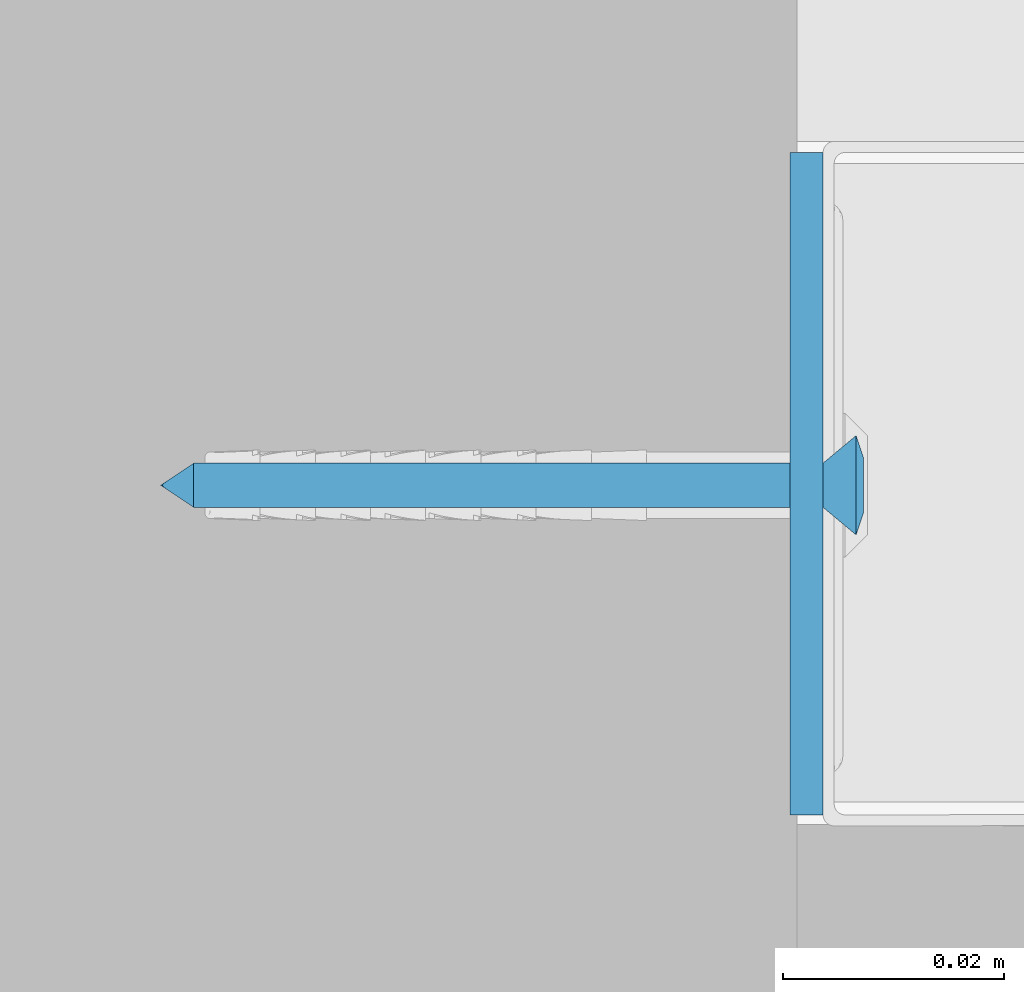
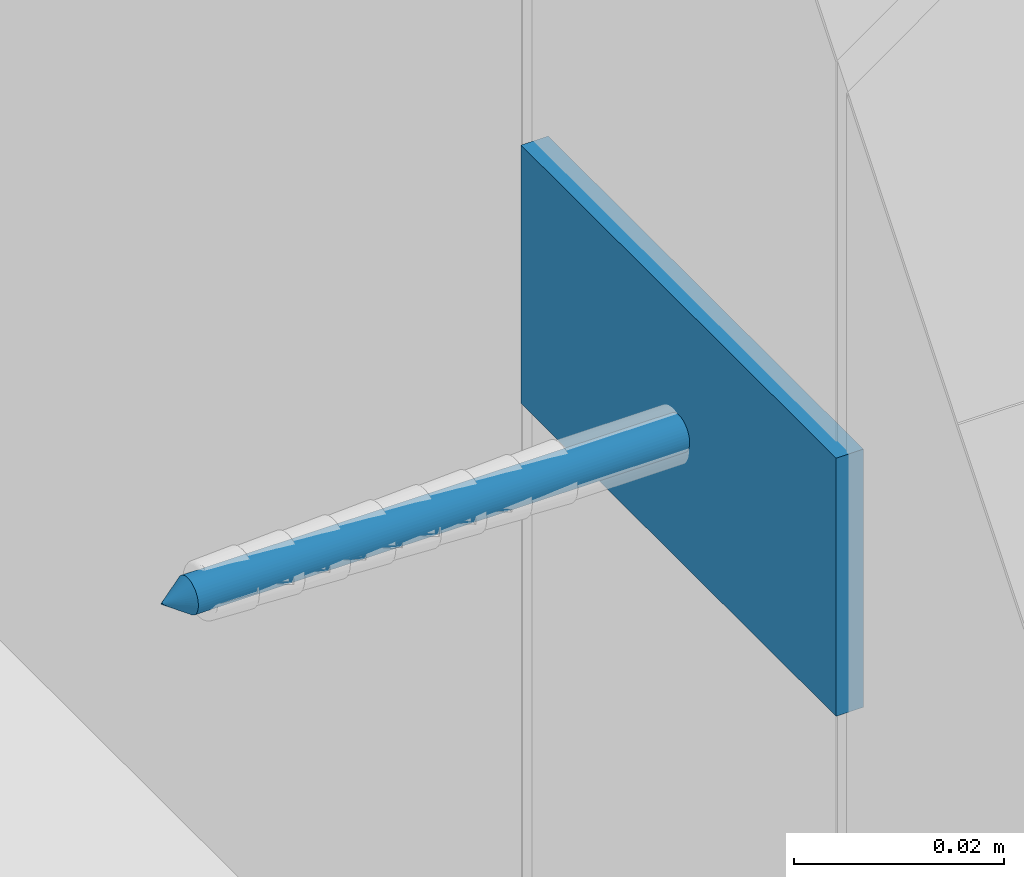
# One storey, part 35 of 67: 2 walls.
"""IFC2X3 building model written with IfcOpenShell, lengths in millimetres."""

from ifc_helpers import new_model, si_unit, frame, origin_with_axes, place, context, subcontext, project, spatial, faceted_brep, material, type_object, element, save


model = new_model("IFC2X3")

# Units and contexts
model_context = context("Model", 3, world=origin_with_axes())
body_context = subcontext(model_context, "Body", "Model", "MODEL_VIEW")
ifc_project = project(units=[si_unit("LENGTHUNIT", "METRE", prefix="MILLI"), si_unit("AREAUNIT", "SQUARE_METRE"), si_unit("VOLUMEUNIT", "CUBIC_METRE")], contexts=[model_context])

# Site, building, storey
site_placement = place(None, frame((2152.14102611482, 674.9749105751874, 57.61556563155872), z_axis=(0.0, 0.0, 1.0), x_axis=(-1.1102230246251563e-16, 1.0, 0.0)))
site = spatial("IfcSite", under=ifc_project, at=site_placement, Name="Default Site", CompositionType="ELEMENT")
building_placement = place(site_placement, origin_with_axes())
building = spatial("IfcBuilding", under=site, at=building_placement, Name="Default Building", CompositionType="ELEMENT")
storey_placement = place(building_placement, origin_with_axes())
storey = spatial("IfcBuildingStorey", under=building, at=storey_placement, Name="Default Building Storey", CompositionType="ELEMENT", Elevation=57.61556563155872)

# Walls
ifc_material = material(Name="Default")
wall_type_1 = type_object("IfcWallType", Name="Kołek rozporowy min. fi 6#35", PredefinedType="NOTDEFINED")
wall_1_placement = place(storey_placement, frame((5691.176283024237, 2016.3286110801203, 1539.671890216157), z_axis=(-6.858158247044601e-13, -1.0, 7.64238051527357e-14), x_axis=(-1.6476028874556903e-11, 7.642380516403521e-14, 1.0)))
element("IfcWall", 1, at=wall_1_placement, inside=storey, type_object=wall_type_1, material=ifc_material, Name="Kołek rozporowy min. fi 6", context=body_context, shape_type="Brep", body=[
    faceted_brep([(-1438.3141994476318, 3453.2833099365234, -0.46425670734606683), (-1435.8141422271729, 3453.2833099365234, -3.464256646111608), (-1435.7895851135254, 3452.970266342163, -3.464256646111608), (-1438.2587671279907, 3452.579259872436, -0.46425670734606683), (-1435.7162714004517, 3452.6650905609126, -3.464256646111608), (-1438.093900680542, 3451.892614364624, -0.46425670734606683), (-1435.5961084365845, 3452.3751735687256, -3.464256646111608), (-1437.8236532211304, 3451.240301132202, -0.46425670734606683), (-1435.4321956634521, 3452.107667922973, -3.464256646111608), (-1437.4547004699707, 3450.6382942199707, -0.46425670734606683), (-1435.22834777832, 3451.8690109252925, -3.464256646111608), (-1436.9961023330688, 3450.101137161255, -0.46425670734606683), (-1434.9896907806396, 3451.665163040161, -3.464256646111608), (-1436.4591836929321, 3449.642658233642, -0.46425670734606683), (-1434.7221851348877, 3451.501131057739, -3.464256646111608), (-1435.8570575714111, 3449.2735862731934, -0.46425670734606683), (-1434.4321489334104, 3451.381206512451, -3.464256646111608), (-1435.2047443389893, 3449.0034580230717, -0.46425670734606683), (-1434.1269731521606, 3451.307773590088, -3.464256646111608), (-1434.5180988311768, 3448.838710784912, -0.46425670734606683), (-1433.8141679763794, 3451.28321647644, -3.464256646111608), (-1433.8141679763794, 3448.7831592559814, -0.46425670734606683), (-1433.5012435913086, 3451.307773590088, -3.464256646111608), (-1433.110237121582, 3448.838710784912, -0.46425670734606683), (-1433.1960678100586, 3451.381206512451, -3.464256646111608), (-1432.4235916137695, 3449.0034580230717, -0.46425670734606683), (-1432.9061508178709, 3451.501131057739, -3.464256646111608), (-1431.771159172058, 3449.2735862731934, -0.46425670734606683), (-1432.6385259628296, 3451.665163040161, -3.464256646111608), (-1431.1691522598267, 3449.642658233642, -0.46425670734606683), (-1432.3999881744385, 3451.8690109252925, -3.464256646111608), (-1430.6321144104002, 3450.101137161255, -0.46425670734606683), (-1432.1961402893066, 3452.107667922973, -3.464256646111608), (-1430.1735162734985, 3450.6382942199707, -0.46425670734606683), (-1432.0321083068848, 3452.3751735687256, -3.464256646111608), (-1429.8045635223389, 3451.240301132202, -0.46425670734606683), (-1431.9120645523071, 3452.6650905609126, -3.464256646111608), (-1429.5344352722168, 3451.892614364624, -0.46425670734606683), (-1431.8387508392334, 3453.5961151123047, -3.464256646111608), (-1429.369568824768, 3453.9871215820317, -0.46425670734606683), (-1429.314136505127, 3453.2833099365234, -0.46425670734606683), (-1431.814193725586, 3453.2833099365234, -3.464256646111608), (-1429.369568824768, 3452.579259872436, -0.46425670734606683), (-1431.8387508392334, 3452.970266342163, -3.464256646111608), (-1431.9120645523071, 3453.9012908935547, -3.464256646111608), (-1429.5344352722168, 3454.6737670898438, -0.46425670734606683), (-1432.0321083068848, 3454.191207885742, -3.464256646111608), (-1429.8045635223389, 3455.3260803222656, -0.46425670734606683), (-1432.1961402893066, 3454.458713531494, -3.464256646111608), (-1430.1735162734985, 3455.9283256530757, -0.46425670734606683), (-1432.3999881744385, 3454.6973705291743, -3.464256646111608), (-1430.6321144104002, 3456.465244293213, -0.46425670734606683), (-1432.6385259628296, 3454.9012184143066, -3.464256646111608), (-1431.1691522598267, 3456.923723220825, -0.46425670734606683), (-1432.9061508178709, 3455.065250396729, -3.464256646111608), (-1431.771159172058, 3457.2927951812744, -0.46425670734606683), (-1433.1960678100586, 3455.1854133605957, -3.464256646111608), (-1432.4235916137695, 3457.562923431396, -0.46425670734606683), (-1433.5012435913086, 3455.25860786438, -3.464256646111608), (-1433.110237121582, 3457.7279090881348, -0.46425670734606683), (-1433.8141679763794, 3455.283164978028, -3.464256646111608), (-1433.8141679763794, 3457.7832221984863, -0.46425670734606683), (-1434.3430995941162, 3457.7519893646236, -0.46425670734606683), (-1434.1269731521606, 3455.25860786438, -3.464256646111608), (-1434.4321489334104, 3455.1854133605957, -3.464256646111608), (-1434.8646402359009, 3457.6590061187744, -0.46425670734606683), (-1435.3716373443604, 3457.504987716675, -0.46425670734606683), (-1434.7221851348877, 3455.065250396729, -3.464256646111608), (-1435.8570575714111, 3457.2927951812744, -0.46425670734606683), (-1434.9896907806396, 3454.9012184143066, -3.464256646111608), (-1435.22834777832, 3454.6973705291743, -3.464256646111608), (-1436.3142251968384, 3457.024812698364, -0.46425670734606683), (-1436.7367029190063, 3456.705093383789, -0.46425670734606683), (-1437.118649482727, 3456.337928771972, -0.46425670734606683), (-1437.4547004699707, 3455.9283256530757, -0.46425670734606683), (-1435.4321956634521, 3454.458713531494, -3.464256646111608), (-1435.5961084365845, 3454.191207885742, -3.464256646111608), (-1437.8236532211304, 3455.3260803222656, -0.46425670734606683), (-1435.7162714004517, 3453.9012908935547, -3.464256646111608), (-1438.093900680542, 3454.6737670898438, -0.46425670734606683), (-1435.7895851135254, 3453.5961151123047, -3.464256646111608), (-1438.2587671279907, 3453.9871215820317, -0.46425670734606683), (-1434.2052936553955, 3455.752372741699, 0.20073754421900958), (-1433.8141679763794, 3455.7831287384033, 0.20073754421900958), (-1434.5866441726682, 3455.6608200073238, 0.20073754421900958), (-1434.9491596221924, 3455.510854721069, 0.20073754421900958), (-1435.2836608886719, 3455.305814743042, 0.20073754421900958), (-1435.581922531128, 3455.0509452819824, 0.20073754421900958), (-1435.836672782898, 3454.7526836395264, 0.20073754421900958), (-1436.0417127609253, 3454.418182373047, 0.20073754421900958), (-1436.1917972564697, 3454.0557861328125, 0.20073754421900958), (-1436.2833499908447, 3453.6743164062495, 0.20073754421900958), (-1436.3141059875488, 3453.2833099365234, 0.20073754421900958), (-1436.2833499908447, 3452.8920650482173, 0.20073754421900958), (-1436.1917972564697, 3452.5105953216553, 0.20073754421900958), (-1436.0417127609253, 3452.148199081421, 0.20073754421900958), (-1435.836672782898, 3451.8136978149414, 0.20073754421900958), (-1435.581922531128, 3451.5154361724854, 0.20073754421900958), (-1435.2836608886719, 3451.260566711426, 0.20073754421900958), (-1434.9491596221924, 3451.0557651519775, 0.20073754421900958), (-1434.5866441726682, 3450.905561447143, 0.20073754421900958), (-1433.4230422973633, 3450.8140087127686, 0.20073754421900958), (-1433.8141679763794, 3450.7832527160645, 0.20073754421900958), (-1434.2052936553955, 3450.8140087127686, 0.20073754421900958), (-1433.0415725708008, 3450.905561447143, 0.20073754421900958), (-1432.6791763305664, 3451.0557651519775, 0.20073754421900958), (-1432.344675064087, 3451.260566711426, 0.20073754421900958), (-1432.0464134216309, 3451.5154361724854, 0.20073754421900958), (-1431.7916631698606, 3451.8136978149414, 0.20073754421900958), (-1431.5866231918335, 3452.148199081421, 0.20073754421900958), (-1431.436538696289, 3452.5105953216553, 0.20073754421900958), (-1431.344985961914, 3452.8920650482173, 0.20073754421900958), (-1431.3141107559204, 3453.2833099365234, 0.20073754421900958), (-1431.344985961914, 3453.6743164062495, 0.20073754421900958), (-1431.436538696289, 3454.0557861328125, 0.20073754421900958), (-1431.5866231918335, 3454.418182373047, 0.20073754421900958), (-1431.7916631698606, 3454.7526836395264, 0.20073754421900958), (-1432.0464134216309, 3455.0509452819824, 0.20073754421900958), (-1432.344675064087, 3455.305814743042, 0.20073754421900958), (-1432.6791763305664, 3455.510854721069, 0.20073754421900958), (-1433.0415725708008, 3455.6608200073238, 0.20073754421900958), (-1433.4230422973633, 3455.752372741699, 0.20073754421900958), (-1433.8141679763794, 3453.2833099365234, -63.46425414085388), (-1435.7895851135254, 3452.970266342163, -60.464255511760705), (-1435.8141422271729, 3453.2833099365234, -60.464255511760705), (-1435.7162714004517, 3452.6650905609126, -60.464255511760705), (-1435.5961084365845, 3452.3751735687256, -60.464255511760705), (-1435.4321956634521, 3452.107667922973, -60.464255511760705), (-1435.22834777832, 3451.8690109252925, -60.464255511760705), (-1434.9896907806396, 3451.665163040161, -60.464255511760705), (-1434.7221851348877, 3451.501131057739, -60.464255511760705), (-1434.4321489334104, 3451.381206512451, -60.464255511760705), (-1434.1269731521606, 3451.307773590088, -60.464255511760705), (-1433.8141679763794, 3451.28321647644, -60.464255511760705), (-1433.5012435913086, 3451.307773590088, -60.464255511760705), (-1433.1960678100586, 3451.381206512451, -60.464255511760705), (-1432.9061508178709, 3451.501131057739, -60.464255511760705), (-1432.6385259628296, 3451.665163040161, -60.464255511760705), (-1432.3999881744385, 3451.8690109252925, -60.464255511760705), (-1432.1961402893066, 3452.107667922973, -60.464255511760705), (-1432.0321083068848, 3452.3751735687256, -60.464255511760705), (-1431.9120645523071, 3452.6650905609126, -60.464255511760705), (-1431.8387508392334, 3452.970266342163, -60.464255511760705), (-1431.814193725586, 3453.2833099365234, -60.464255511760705), (-1431.8387508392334, 3453.5961151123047, -60.464255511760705), (-1431.9120645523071, 3453.9012908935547, -60.464255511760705), (-1432.0321083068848, 3454.191207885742, -60.464255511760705), (-1432.1961402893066, 3454.458713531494, -60.464255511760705), (-1432.3999881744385, 3454.6973705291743, -60.464255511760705), (-1432.6385259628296, 3454.9012184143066, -60.464255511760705), (-1432.9061508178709, 3455.065250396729, -60.464255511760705), (-1433.1960678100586, 3455.1854133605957, -60.464255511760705), (-1433.5012435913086, 3455.25860786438, -60.464255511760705), (-1433.8141679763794, 3455.283164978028, -60.464255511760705), (-1434.1269731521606, 3455.25860786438, -60.464255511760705), (-1434.4321489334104, 3455.1854133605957, -60.464255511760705), (-1434.7221851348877, 3455.065250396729, -60.464255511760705), (-1434.9896907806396, 3454.9012184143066, -60.464255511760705), (-1435.22834777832, 3454.6973705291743, -60.464255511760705), (-1435.4321956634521, 3454.458713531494, -60.464255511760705), (-1435.5961084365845, 3454.191207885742, -60.464255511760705), (-1435.7162714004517, 3453.9012908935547, -60.464255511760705), (-1435.7895851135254, 3453.5961151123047, -60.464255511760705), (-1436.0417127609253, 3454.418182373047, 0.049999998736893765), (-1436.1917972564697, 3454.0557861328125, 0.049999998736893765), (-1436.2833499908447, 3453.6743164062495, 0.049999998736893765), (-1436.3141059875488, 3453.2833099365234, 0.049999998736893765), (-1436.2833499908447, 3452.8920650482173, 0.049999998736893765), (-1436.1917972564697, 3452.5105953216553, 0.049999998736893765), (-1436.0417127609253, 3452.148199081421, 0.049999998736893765), (-1435.836672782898, 3451.8136978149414, 0.049999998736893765), (-1435.581922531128, 3451.5154361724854, 0.049999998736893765), (-1435.2836608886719, 3451.260566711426, 0.049999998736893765), (-1434.9491596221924, 3451.0557651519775, 0.049999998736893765), (-1434.5866441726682, 3450.905561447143, 0.049999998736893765), (-1434.2052936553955, 3450.8140087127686, 0.049999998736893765), (-1433.8141679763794, 3450.7832527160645, 0.049999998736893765), (-1433.4230422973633, 3450.8140087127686, 0.049999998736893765), (-1433.0415725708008, 3450.905561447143, 0.049999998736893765), (-1432.6791763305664, 3451.0557651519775, 0.049999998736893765), (-1432.344675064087, 3451.260566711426, 0.049999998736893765), (-1432.0464134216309, 3451.5154361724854, 0.049999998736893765), (-1431.7916631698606, 3451.8136978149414, 0.049999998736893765), (-1431.5866231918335, 3452.148199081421, 0.049999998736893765), (-1431.436538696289, 3452.5105953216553, 0.049999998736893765), (-1431.344985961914, 3452.8920650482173, 0.049999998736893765), (-1431.3141107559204, 3453.2833099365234, 0.049999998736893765), (-1431.344985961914, 3453.6743164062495, 0.049999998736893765), (-1431.436538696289, 3454.0557861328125, 0.049999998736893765), (-1431.5866231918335, 3454.418182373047, 0.049999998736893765), (-1431.7916631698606, 3454.7526836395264, 0.049999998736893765), (-1432.0464134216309, 3455.0509452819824, 0.049999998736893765), (-1432.344675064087, 3455.305814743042, 0.049999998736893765), (-1432.6791763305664, 3455.510854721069, 0.049999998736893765), (-1433.0415725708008, 3455.6608200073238, 0.049999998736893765), (-1433.4230422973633, 3455.752372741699, 0.049999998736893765), (-1433.8141679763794, 3455.7831287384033, 0.049999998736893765), (-1434.2052936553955, 3455.752372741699, 0.049999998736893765), (-1434.5866441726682, 3455.6608200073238, 0.049999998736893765), (-1434.9491596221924, 3455.510854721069, 0.049999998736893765), (-1435.2836608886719, 3455.305814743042, 0.049999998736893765), (-1435.581922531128, 3455.0509452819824, 0.049999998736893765), (-1435.836672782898, 3454.7526836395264, 0.049999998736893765), (-1434.3141317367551, 3452.7831077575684, 0.049999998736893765), (-1435.8141422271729, 3452.7831077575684, 0.049999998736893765), (-1435.8141422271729, 3453.7832736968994, 0.049999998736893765), (-1434.3141317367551, 3453.7832736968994, 0.049999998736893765), (-1434.3141317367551, 3455.283164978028, 0.049999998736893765), (-1433.3142042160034, 3455.283164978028, 0.049999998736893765), (-1433.3142042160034, 3453.7832736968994, 0.049999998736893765), (-1431.814193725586, 3453.7832736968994, 0.049999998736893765), (-1431.814193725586, 3452.7831077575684, 0.049999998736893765), (-1433.3142042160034, 3452.7831077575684, 0.049999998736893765), (-1433.3142042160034, 3451.28321647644, 0.049999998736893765), (-1434.3141317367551, 3451.28321647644, 0.049999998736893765), (-1434.3141317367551, 3452.7831077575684, -1.799262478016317), (-1434.3141317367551, 3451.28321647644, -1.799262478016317), (-1433.3142042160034, 3451.28321647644, -1.799262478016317), (-1433.3142042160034, 3452.7831077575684, -1.799262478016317), (-1431.814193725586, 3452.7831077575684, -1.799262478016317), (-1431.814193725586, 3453.7832736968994, -1.799262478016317), (-1433.3142042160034, 3453.7832736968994, -1.799262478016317), (-1433.3142042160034, 3455.283164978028, -1.799262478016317), (-1434.3141317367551, 3455.283164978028, -1.799262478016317), (-1434.3141317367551, 3453.7832736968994, -1.799262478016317), (-1435.8141422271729, 3453.7832736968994, -1.799262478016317), (-1435.8141422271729, 3452.7831077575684, -1.799262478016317)], [[[0, 1, 2, 3]], [[4, 5, 3, 2]], [[6, 7, 5, 4]], [[7, 6, 8, 9]], [[10, 11, 9, 8]], [[11, 10, 12, 13]], [[14, 15, 13, 12]], [[16, 17, 15, 14]], [[17, 16, 18, 19]], [[20, 21, 19, 18]], [[21, 20, 22, 23]], [[24, 25, 23, 22]], [[26, 27, 25, 24]], [[27, 26, 28, 29]], [[30, 31, 29, 28]], [[31, 30, 32, 33]], [[34, 35, 33, 32]], [[36, 37, 35, 34]], [[38, 39, 40, 41]], [[41, 40, 42, 43]], [[37, 36, 43, 42]], [[44, 45, 39, 38]], [[46, 47, 45, 44]], [[47, 46, 48, 49]], [[50, 51, 49, 48]], [[51, 50, 52, 53]], [[54, 55, 53, 52]], [[56, 57, 55, 54]], [[57, 56, 58, 59]], [[60, 61, 59, 58]], [[62, 61, 63]], [[61, 60, 63]], [[63, 64, 62]], [[64, 65, 62]], [[66, 65, 64]], [[64, 67, 66]], [[67, 68, 66]], [[69, 70, 71]], [[70, 72, 71]], [[71, 68, 69]], [[68, 67, 69]], [[70, 73, 72]], [[74, 73, 75]], [[73, 70, 75]], [[76, 77, 74, 75]], [[78, 79, 77, 76]], [[79, 78, 80, 81]], [[1, 0, 81, 80]], [[82, 83, 62]], [[83, 61, 62]], [[62, 65, 82]], [[65, 84, 82]], [[66, 68, 84]], [[68, 85, 84]], [[84, 65, 66]], [[86, 85, 71]], [[85, 68, 71]], [[72, 73, 87]], [[87, 86, 72]], [[86, 71, 72]], [[88, 87, 74]], [[87, 73, 74]], [[77, 89, 88, 74]], [[79, 90, 89, 77]], [[90, 79, 81, 91]], [[0, 92, 91, 81]], [[92, 0, 3, 93]], [[5, 94, 93, 3]], [[7, 95, 94, 5]], [[95, 7, 9, 96]], [[11, 97, 96, 9]], [[97, 11, 13, 98]], [[15, 99, 98, 13]], [[17, 100, 99, 15]], [[23, 101, 102, 21]], [[21, 102, 103, 19]], [[100, 17, 19, 103]], [[25, 104, 101, 23]], [[27, 105, 104, 25]], [[105, 27, 29, 106]], [[31, 107, 106, 29]], [[107, 31, 33, 108]], [[35, 109, 108, 33]], [[37, 110, 109, 35]], [[110, 37, 42, 111]], [[40, 112, 111, 42]], [[112, 40, 39, 113]], [[45, 114, 113, 39]], [[47, 115, 114, 45]], [[115, 47, 49, 116]], [[51, 117, 116, 49]], [[117, 51, 53, 118]], [[55, 119, 118, 53]], [[57, 120, 119, 55]], [[120, 57, 59, 121]], [[61, 83, 121, 59]], [[122, 123, 124]], [[122, 125, 123]], [[122, 126, 125]], [[127, 126, 122]], [[122, 128, 127]], [[129, 128, 122]], [[122, 130, 129]], [[122, 131, 130]], [[132, 131, 122]], [[122, 133, 132]], [[134, 133, 122]], [[122, 135, 134]], [[122, 136, 135]], [[137, 136, 122]], [[122, 138, 137]], [[139, 138, 122]], [[122, 140, 139]], [[122, 141, 140]], [[142, 141, 122]], [[122, 143, 142]], [[144, 143, 122]], [[122, 145, 144]], [[122, 146, 145]], [[147, 146, 122]], [[122, 148, 147]], [[149, 148, 122]], [[122, 150, 149]], [[122, 151, 150]], [[152, 151, 122]], [[122, 153, 152]], [[154, 153, 122]], [[122, 155, 154]], [[122, 156, 155]], [[157, 156, 122]], [[122, 158, 157]], [[159, 158, 122]], [[122, 160, 159]], [[122, 161, 160]], [[162, 161, 122]], [[124, 162, 122]], [[1, 124, 123, 2]], [[125, 4, 2, 123]], [[126, 6, 4, 125]], [[6, 126, 127, 8]], [[128, 10, 8, 127]], [[10, 128, 129, 12]], [[130, 14, 12, 129]], [[131, 16, 14, 130]], [[16, 131, 132, 18]], [[133, 20, 18, 132]], [[20, 133, 134, 22]], [[135, 24, 22, 134]], [[136, 26, 24, 135]], [[26, 136, 137, 28]], [[138, 30, 28, 137]], [[30, 138, 139, 32]], [[140, 34, 32, 139]], [[141, 36, 34, 140]], [[144, 38, 41, 143]], [[143, 41, 43, 142]], [[36, 141, 142, 43]], [[145, 44, 38, 144]], [[146, 46, 44, 145]], [[46, 146, 147, 48]], [[148, 50, 48, 147]], [[50, 148, 149, 52]], [[150, 54, 52, 149]], [[151, 56, 54, 150]], [[56, 151, 152, 58]], [[153, 60, 58, 152]], [[60, 153, 154, 63]], [[155, 64, 63, 154]], [[156, 67, 64, 155]], [[67, 156, 157, 69]], [[158, 70, 69, 157]], [[70, 158, 159, 75]], [[160, 76, 75, 159]], [[161, 78, 76, 160]], [[78, 161, 162, 80]], [[124, 1, 80, 162]], [[163, 164, 165, 166, 167, 168, 169, 170, 171, 172, 173, 174, 175, 176, 177, 178, 179, 180, 181, 182, 183, 184, 185, 186, 187, 188, 189, 190, 191, 192, 193, 194, 195, 196, 197, 198, 199, 200, 201, 202], [203, 204, 205, 206, 207, 208, 209, 210, 211, 212, 213, 214]], [[187, 186, 112, 113]], [[113, 114, 188, 187]], [[114, 115, 189, 188]], [[190, 189, 115, 116]], [[116, 117, 191, 190]], [[192, 191, 117, 118]], [[118, 119, 193, 192]], [[119, 120, 194, 193]], [[195, 194, 120, 121]], [[121, 83, 196, 195]], [[197, 196, 83, 82]], [[82, 84, 198, 197]], [[84, 85, 199, 198]], [[200, 199, 85, 86]], [[86, 87, 201, 200]], [[202, 201, 87, 88]], [[88, 89, 163, 202]], [[89, 90, 164, 163]], [[92, 93, 167, 166]], [[91, 92, 166, 165]], [[165, 164, 90, 91]], [[93, 94, 168, 167]], [[94, 95, 169, 168]], [[170, 169, 95, 96]], [[96, 97, 171, 170]], [[172, 171, 97, 98]], [[98, 99, 173, 172]], [[99, 100, 174, 173]], [[175, 174, 100, 103]], [[103, 102, 176, 175]], [[177, 176, 102, 101]], [[101, 104, 178, 177]], [[104, 105, 179, 178]], [[180, 179, 105, 106]], [[106, 107, 181, 180]], [[182, 181, 107, 108]], [[108, 109, 183, 182]], [[109, 110, 184, 183]], [[185, 184, 110, 111]], [[111, 112, 186, 185]], [[215, 216, 217, 218, 219, 220, 221, 222, 223, 224, 225, 226]], [[216, 214, 213, 217]], [[215, 203, 214, 216]], [[226, 204, 203, 215]], [[225, 205, 204, 226]], [[224, 206, 205, 225]], [[223, 207, 206, 224]], [[222, 208, 207, 223]], [[221, 209, 208, 222]], [[220, 210, 209, 221]], [[219, 211, 210, 220]], [[218, 212, 211, 219]], [[217, 213, 212, 218]]]),
])
wall_type_2 = type_object("IfcWallType", Name="Taśma uszczelniająca piankowa RIGIPS szer.30mm#9", PredefinedType="NOTDEFINED")
wall_2_placement = place(storey_placement, frame((2208.0370864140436, 2019.778611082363, 120.96024801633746), z_axis=(0.0, 0.0, 1.0), x_axis=(1.0, 0.0, 0.0)))
element("IfcWall", 2, at=wall_2_placement, inside=storey, type_object=wall_type_2, material=ifc_material, Name="Taśma uszczelniająca piankowa RIGIPS szer.30mm", context=body_context, shape_type="Brep", body=[
    faceted_brep([(59.99999865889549, 0.0, 4.511946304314e-12), (0.0, 0.0, 0.0), (1.0828671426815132e-12, -2.2379254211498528e-11, -29.999999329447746), (59.99999865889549, -2.2379254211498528e-11, -29.999999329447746), (0.0, 3.000000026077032, 0.0), (1.0828671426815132e-12, 3.000000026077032, -29.999999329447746), (59.99999865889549, 3.000000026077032, 0.0), (59.99999865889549, 3.000000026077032, -29.999999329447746)], [[[0, 1, 2, 3]], [[1, 4, 5, 2]], [[4, 6, 7, 5]], [[6, 0, 3, 7]], [[7, 3, 2, 5]], [[0, 6, 4, 1]]]),
])

save(model, "model.ifc")
